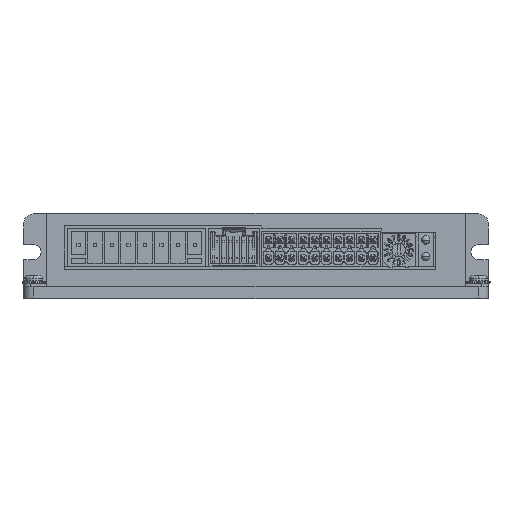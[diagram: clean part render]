
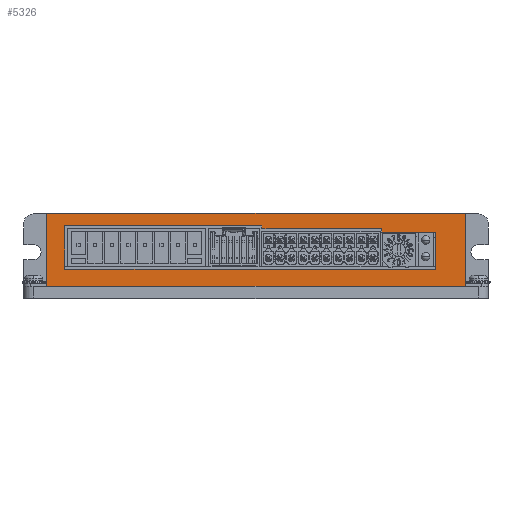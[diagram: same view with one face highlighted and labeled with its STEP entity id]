
A CAD part, top view. The second image highlights one B-rep face of the part: STEP entity #5326.
In plain terms, the highlighted planar face has unit normal (0, 0, 1).
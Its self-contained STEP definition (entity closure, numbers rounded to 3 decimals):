
#1981=DIRECTION('',(1.,0.,0.));
#1982=VECTOR('',#1981,126.);
#1983=CARTESIAN_POINT('',(-63.,17.3,2.5));
#1984=LINE('',#1983,#1982);
#2240=DIRECTION('',(1.,0.,0.));
#2241=VECTOR('',#2240,126.);
#2242=CARTESIAN_POINT('',(-63.,-4.7,2.5));
#2243=LINE('',#2242,#2241);
#2485=DIRECTION('',(0.,-1.,0.));
#2486=VECTOR('',#2485,22.);
#2487=CARTESIAN_POINT('',(63.,17.3,2.5));
#2488=LINE('',#2487,#2486);
#2883=DIRECTION('',(0.,-1.,0.));
#2884=VECTOR('',#2883,22.);
#2885=CARTESIAN_POINT('',(-63.,17.3,2.5));
#2886=LINE('',#2885,#2884);
#2887=DIRECTION('',(0.,1.,0.));
#2888=VECTOR('',#2887,11.2);
#2889=CARTESIAN_POINT('',(54.17,0.5,2.5));
#2890=LINE('',#2889,#2888);
#2891=DIRECTION('',(1.,0.,0.));
#2892=VECTOR('',#2891,16.27);
#2893=CARTESIAN_POINT('',(37.9,11.7,2.5));
#2894=LINE('',#2893,#2892);
#2895=DIRECTION('',(0.,-1.,0.));
#2896=VECTOR('',#2895,1.);
#2897=CARTESIAN_POINT('',(37.9,12.7,2.5));
#2898=LINE('',#2897,#2896);
#2899=DIRECTION('',(-1.,0.,0.));
#2900=VECTOR('',#2899,36.1);
#2901=CARTESIAN_POINT('',(37.9,12.7,2.5));
#2902=LINE('',#2901,#2900);
#2903=DIRECTION('',(0.,1.,0.));
#2904=VECTOR('',#2903,0.9);
#2905=CARTESIAN_POINT('',(1.8,12.7,2.5));
#2906=LINE('',#2905,#2904);
#2907=DIRECTION('',(-1.,0.,0.));
#2908=VECTOR('',#2907,59.4);
#2909=CARTESIAN_POINT('',(1.8,13.6,2.5));
#2910=LINE('',#2909,#2908);
#2911=DIRECTION('',(0.,-1.,0.));
#2912=VECTOR('',#2911,13.1);
#2913=CARTESIAN_POINT('',(-57.6,13.6,2.5));
#2914=LINE('',#2913,#2912);
#2915=DIRECTION('',(1.,0.,0.));
#2916=VECTOR('',#2915,111.77);
#2917=CARTESIAN_POINT('',(-57.6,0.5,2.5));
#2918=LINE('',#2917,#2916);
#3696=CARTESIAN_POINT('',(-63.,17.3,2.5));
#3698=VERTEX_POINT('',#3696);
#3699=CARTESIAN_POINT('',(63.,17.3,2.5));
#3700=VERTEX_POINT('',#3699);
#3703=CARTESIAN_POINT('',(-63.,-4.7,2.5));
#3704=CARTESIAN_POINT('',(63.,-4.7,2.5));
#3705=VERTEX_POINT('',#3703);
#3706=VERTEX_POINT('',#3704);
#3823=CARTESIAN_POINT('',(1.8,12.7,2.5));
#3824=CARTESIAN_POINT('',(1.8,13.6,2.5));
#3825=VERTEX_POINT('',#3823);
#3826=VERTEX_POINT('',#3824);
#3827=CARTESIAN_POINT('',(-57.6,13.6,2.5));
#3828=VERTEX_POINT('',#3827);
#3829=CARTESIAN_POINT('',(-57.6,0.5,2.5));
#3830=VERTEX_POINT('',#3829);
#3831=CARTESIAN_POINT('',(54.17,0.5,2.5));
#3832=VERTEX_POINT('',#3831);
#4227=CARTESIAN_POINT('',(37.9,11.7,2.5));
#4229=VERTEX_POINT('',#4227);
#4232=CARTESIAN_POINT('',(54.17,11.7,2.5));
#4234=VERTEX_POINT('',#4232);
#4236=CARTESIAN_POINT('',(37.9,12.7,2.5));
#4238=VERTEX_POINT('',#4236);
#5297=CARTESIAN_POINT('',(-63.,17.3,2.5));
#5298=DIRECTION('',(0.,0.,1.));
#5299=DIRECTION('',(1.,0.,0.));
#5300=AXIS2_PLACEMENT_3D('',#5297,#5298,#5299);
#5301=PLANE('',#5300);
#5302=ORIENTED_EDGE('',*,*,#4256,.T.);
#5303=ORIENTED_EDGE('',*,*,#4823,.T.);
#5304=ORIENTED_EDGE('',*,*,#4574,.F.);
#5305=ORIENTED_EDGE('',*,*,#5110,.F.);
#5306=EDGE_LOOP('',(#5302,#5303,#5304,#5305));
#5307=FACE_OUTER_BOUND('',#5306,.F.);
#5309=ORIENTED_EDGE('',*,*,#5308,.T.);
#5311=ORIENTED_EDGE('',*,*,#5310,.F.);
#5313=ORIENTED_EDGE('',*,*,#5312,.F.);
#5315=ORIENTED_EDGE('',*,*,#5314,.T.);
#5317=ORIENTED_EDGE('',*,*,#5316,.T.);
#5319=ORIENTED_EDGE('',*,*,#5318,.T.);
#5321=ORIENTED_EDGE('',*,*,#5320,.T.);
#5323=ORIENTED_EDGE('',*,*,#5322,.T.);
#5324=EDGE_LOOP('',(#5309,#5311,#5313,#5315,#5317,#5319,#5321,#5323));
#5325=FACE_BOUND('',#5324,.F.);
#5326=ADVANCED_FACE('',(#5307,#5325),#5301,.T.);
#4256=EDGE_CURVE('',#3698,#3700,#1984,.T.);
#4574=EDGE_CURVE('',#3705,#3706,#2243,.T.);
#4823=EDGE_CURVE('',#3700,#3706,#2488,.T.);
#5110=EDGE_CURVE('',#3698,#3705,#2886,.T.);
#5308=EDGE_CURVE('',#3832,#4234,#2890,.T.);
#5310=EDGE_CURVE('',#4229,#4234,#2894,.T.);
#5312=EDGE_CURVE('',#4238,#4229,#2898,.T.);
#5314=EDGE_CURVE('',#4238,#3825,#2902,.T.);
#5316=EDGE_CURVE('',#3825,#3826,#2906,.T.);
#5318=EDGE_CURVE('',#3826,#3828,#2910,.T.);
#5320=EDGE_CURVE('',#3828,#3830,#2914,.T.);
#5322=EDGE_CURVE('',#3830,#3832,#2918,.T.);
